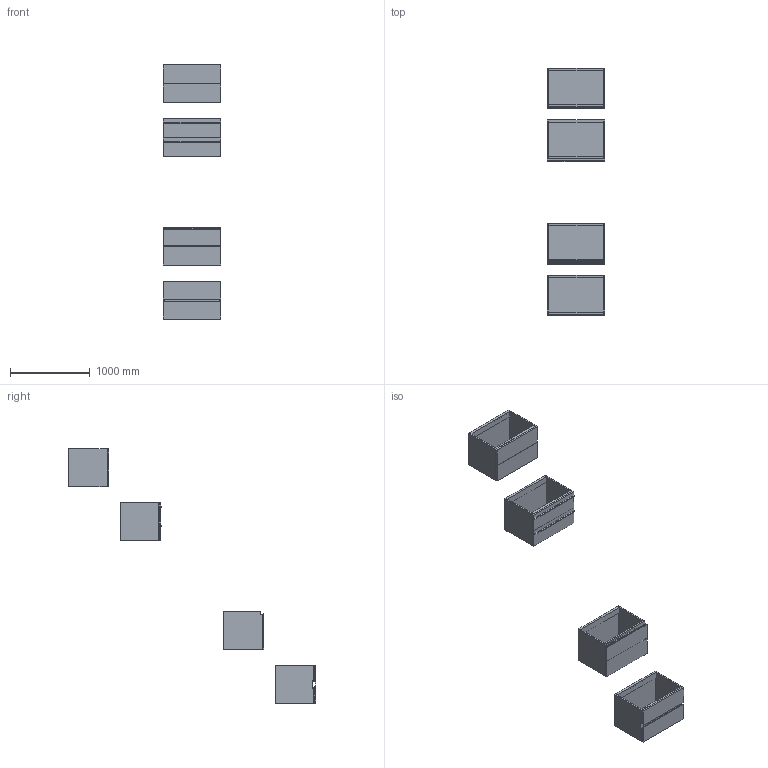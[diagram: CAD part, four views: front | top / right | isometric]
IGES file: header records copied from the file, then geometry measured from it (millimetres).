
Start section: Data from Parasolid IGES Translator 19.0.9, Copyright(c) 2006 Siemens PL M Software. All Rights Reserved.
Global section: file name: noorth-SI-H 48 D 51 W 72_8534.igs; native system: By Siemens PLM Incorporated; preprocessor: XPlus GENERIC/IGES 19.0.9; author: Noname; organization: Noname; date: 20200601.114122; units: metre
Bounding box: 720 x 3107.1 x 3200.01 mm (x, y, z)
Volume: 87776705.8 mm3; surface area: 13458827.9 mm2
Topology: 37 solids, 37 shells, 342 faces, 748 edges, 460 vertices
Faces by surface type: plane 254, extrusion 36, bspline 32, cylinder 20
